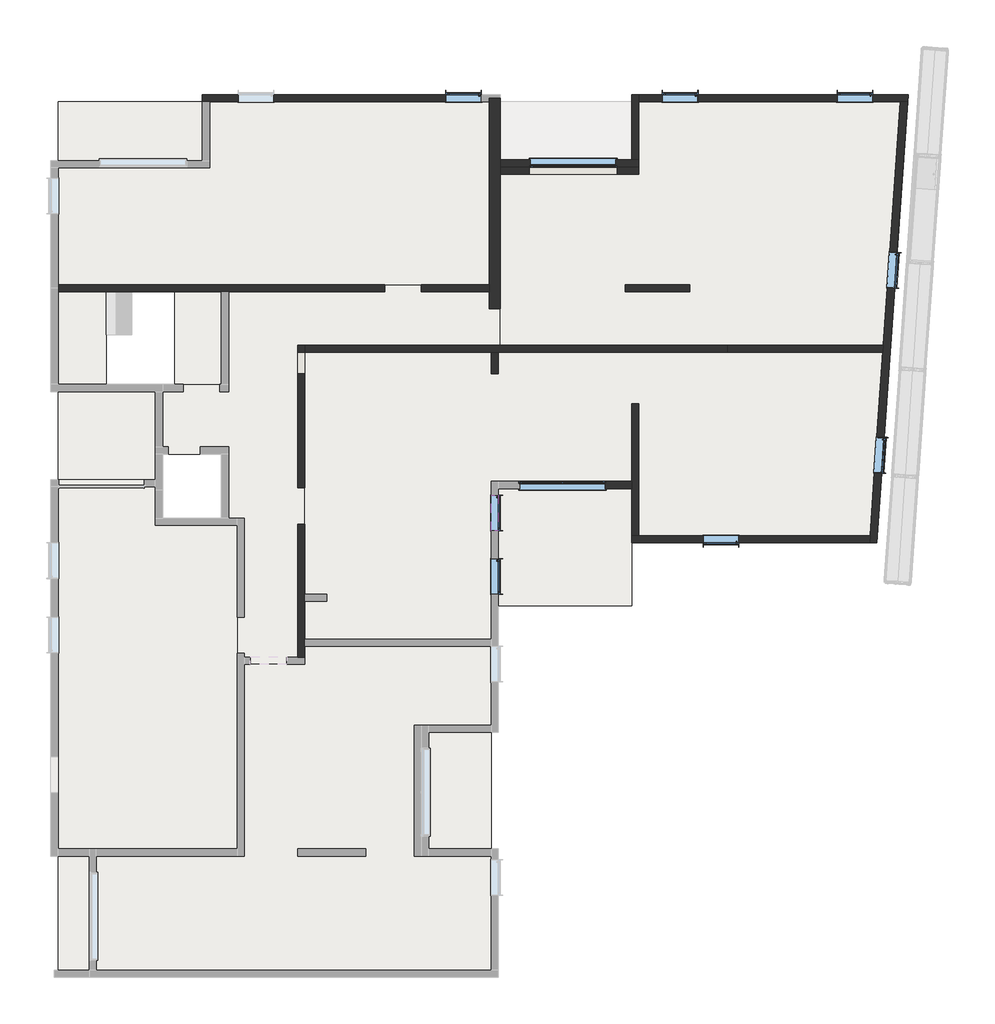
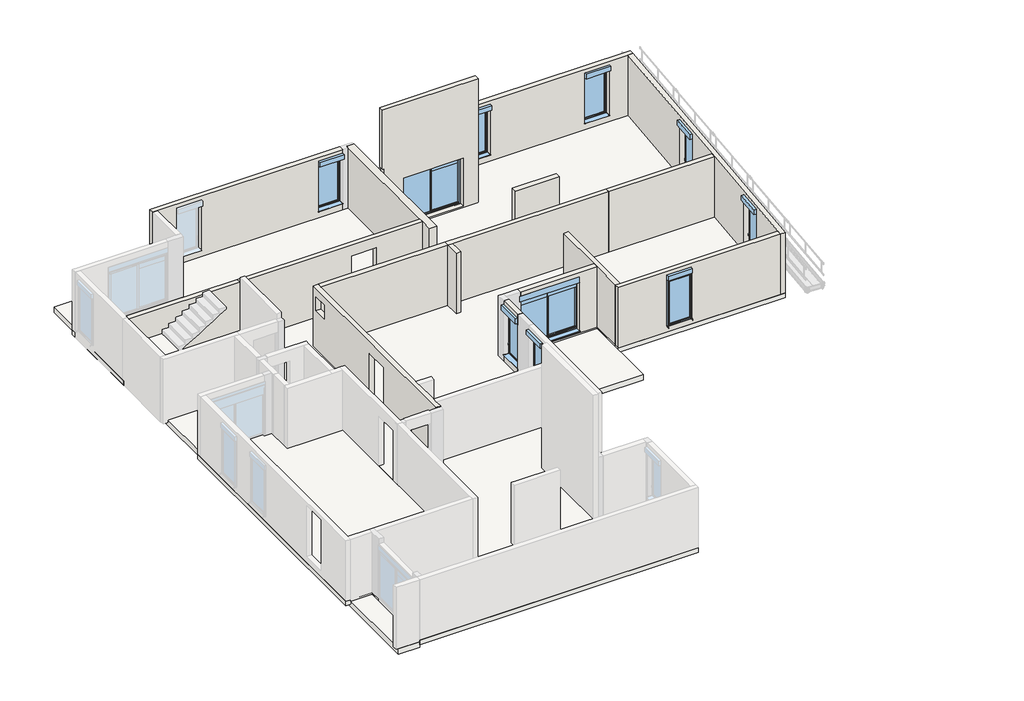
# One storey, part 2 of 3: 18 walls, 10 slabs, 10 windows.
"""IFC4 building model written with IfcOpenShell, lengths in millimetres."""

from ifc_helpers import new_model, si_unit, frame, origin, place, context, project, spatial, polyline, outline, extrude, faceted_brep, transform, mapped, element, save
from components import window_b85a0a24, window_200x100_8459d8a5, window_200x100_a15cc3b6

model = new_model("IFC4")

# Units and contexts
model_context = context("Model", 3, world=origin())
ifc_project = project(units=[si_unit("LENGTHUNIT", "METRE", prefix="MILLI")], contexts=[model_context])

# Site, building, storey
site = spatial("IfcSite", under=ifc_project)
building = spatial("IfcBuilding", under=site)
storey = spatial("IfcBuildingStorey", under=building, Name="06-Plateau 6", Elevation=10400.0)

# Slabs
placement = place(None, origin())
element("IfcSlab", 1, ObjectType="Plancher Coulé en place 23 cm", at=placement, inside=storey, context=model_context, shape_type="Brep", body=[
    faceted_brep([(1012.9552204, 11779.8622276, 9510.0), (1012.9552204, 3239.8622276, 9510.0), (1012.9552204, 3039.8622276, 9510.0), (507.9552204, 3039.8622276, 9510.0), (-512.0447796, 3039.8622276, 9510.0), (-687.0447796, 3039.8622276, 9510.0), (-887.0447796, 3039.8622276, 9510.0), (-887.0447796, 3339.8622276, 9510.0), (-887.0447796, 7129.8622276, 9510.0), (-1072.0447796, 7129.8622276, 9510.0), (-1327.0447796, 7129.8622276, 9510.0), (-1327.0447796, 8929.8622276, 9510.0), (-2817.0447796, 8929.8622276, 9510.0), (-3177.0447796, 8929.8622276, 9510.0), (-3177.0447796, 9129.8622276, 9510.0), (-3177.0447796, 10879.8622276, 9510.0), (-1377.0447796, 10879.8622276, 9510.0), (-1327.0447796, 10879.8622276, 9510.0), (-1327.0447796, 13679.8622276, 9510.0), (6482.9552204, 13679.8622276, 9510.0), (6482.9552204, 11779.8622276, 9510.0), (6232.9552204, 11779.8622276, 9510.0), (1012.9552204, 11779.8622276, 9740.0), (6232.9552204, 11779.8622276, 9740.0), (6482.9552204, 11779.8622276, 9740.0), (6482.9552204, 13679.8622276, 9740.0), (-1327.0447796, 13679.8622276, 9740.0), (-1327.0447796, 10879.8622276, 9740.0), (-1377.0447796, 10879.8622276, 9740.0), (-3177.0447796, 10879.8622276, 9740.0), (-3177.0447796, 9129.8622276, 9740.0), (-3177.0447796, 8929.8622276, 9740.0), (-2817.0447796, 8929.8622276, 9740.0), (-1327.0447796, 8929.8622276, 9740.0), (-1327.0447796, 7129.8622276, 9740.0), (-1072.0447796, 7129.8622276, 9740.0), (-887.0447796, 7129.8622276, 9740.0), (-887.0447796, 3339.8622276, 9740.0), (-887.0447796, 3039.8622276, 9740.0), (-687.0447796, 3039.8622276, 9740.0), (-512.0447796, 3039.8622276, 9740.0), (507.9552204, 3039.8622276, 9740.0), (1012.9552204, 3039.8622276, 9740.0), (1012.9552204, 3239.8622276, 9740.0), (-887.0447796, 3039.8622276, 9540.0)], [[[0, 1, 2, 3, 4, 5, 6, 7, 8, 9, 10, 11, 12, 13, 14, 15, 16, 17, 18, 19, 20, 21]], [[22, 23, 24, 25, 26, 27, 28, 29, 30, 31, 32, 33, 34, 35, 36, 37, 38, 39, 40, 41, 42, 43]], [[2, 1, 0, 22, 43, 42]], [[6, 5, 4, 3, 2, 42, 41, 40, 39, 38, 44]], [[8, 7, 6, 44, 38, 37, 36]], [[9, 8, 36, 35]], [[10, 9, 35, 34]], [[11, 10, 34, 33]], [[13, 12, 11, 33, 32, 31]], [[15, 14, 13, 31, 30, 29]], [[17, 16, 15, 29, 28, 27]], [[18, 17, 27, 26]], [[19, 18, 26, 25]], [[20, 19, 25, 24]], [[21, 20, 24, 23]], [[0, 21, 23, 22]]]),
])
element("IfcSlab", 2, ObjectType="Plancher Coulé en place 24 cm", at=placement, inside=storey, context=model_context, shape_type="SweptSolid", body=[
    extrude(outline(polyline([(-1857.0447796, 18799.8622276), (-1857.0447796, 17149.8622276), (-5907.0447796, 17149.8622276), (-5907.0447796, 18799.8622276), (-1857.0447796, 18799.8622276)])), frame((0.0, 0.0, 9430.0), z_axis=(0.0, 0.0, 1.0), x_axis=(1.0, 0.0, 0.0)), (0.0, 0.0, 1.0), 240.0),
])
element("IfcSlab", 3, ObjectType="Plancher Coulé en place 24 cm", at=placement, inside=storey, context=model_context, shape_type="Brep", body=[
    faceted_brep([(-5037.0447796, -5740.1377724, 9430.0), (-5907.0447796, -5740.1377724, 9430.0), (-5907.0447796, -2140.1377724, 9430.0), (-5037.0447796, -2140.1377724, 9430.0), (-5037.0447796, -2640.1377724, 9430.0), (-5037.0447796, -5740.1377724, 9670.0), (-5037.0447796, -2640.1377724, 9670.0), (-5037.0447796, -2140.1377724, 9670.0), (-5907.0447796, -2140.1377724, 9670.0), (-5907.0447796, -5540.1377724, 9670.0), (-5907.0447796, -5740.1377724, 9670.0), (-5907.0447796, -5740.1377724, 9470.0), (-5037.0447796, -2140.1377724, 9540.0)], [[[0, 1, 2, 3, 4]], [[5, 6, 7, 8, 9, 10]], [[0, 4, 6, 5]], [[1, 0, 5, 10, 11]], [[2, 1, 11, 10, 9, 8]], [[3, 2, 8, 7, 12]], [[4, 3, 12, 7, 6]]]),
])
element("IfcSlab", 4, ObjectType="Plancher Coulé en place 24 cm", at=placement, inside=storey, context=model_context, shape_type="Brep", body=[
    faceted_brep([(-3177.0447796, 8209.8622276, 9430.0), (-5907.0447796, 8209.8622276, 9430.0), (-5907.0447796, 10879.8622276, 9430.0), (-3177.0447796, 10879.8622276, 9430.0), (-3177.0447796, 8709.8622276, 9430.0), (-3177.0447796, 8309.8622276, 9430.0), (-3177.0447796, 8209.8622276, 9670.0), (-3177.0447796, 8309.8622276, 9670.0), (-3177.0447796, 8709.8622276, 9670.0), (-3177.0447796, 10879.8622276, 9670.0), (-5907.0447796, 10879.8622276, 9670.0), (-5907.0447796, 8209.8622276, 9670.0), (-3177.0447796, 8209.8622276, 9540.0), (-5907.0447796, 10879.8622276, 9562.7706813), (-5907.0447796, 10879.8622276, 9540.0)], [[[0, 1, 2, 3, 4, 5]], [[6, 7, 8, 9, 10, 11]], [[0, 5, 4, 3, 9, 8, 7, 6, 12]], [[1, 0, 12, 6, 11]], [[2, 1, 11, 10, 13, 14]], [[3, 2, 14, 13, 10, 9]]]),
])
element("IfcSlab", 5, ObjectType="Plancher Coulé en place 24 cm", at=placement, inside=storey, context=model_context, shape_type="SweptSolid", body=[
    extrude(outline(polyline([(-1857.0447796, 18799.8622276), (-1857.0447796, 17149.8622276), (-5907.0447796, 17149.8622276), (-5907.0447796, 18799.8622276), (-1857.0447796, 18799.8622276)])), frame((0.0, 0.0, 9430.0), z_axis=(0.0, 0.0, 1.0), x_axis=(1.0, 0.0, 0.0)), (0.0, 0.0, 1.0), 240.0),
])
element("IfcSlab", 6, ObjectType="Plancher Coulé en place 24 cm", at=placement, inside=storey, context=model_context, shape_type="Brep", body=[
    faceted_brep([(6232.9552204, 759.8622276, 9430.0), (6232.9552204, -2140.1377724, 9430.0), (4478.3552204, -2140.1377724, 9430.0), (4478.3552204, 1129.8622276, 9430.0), (6232.9552204, 1129.8622276, 9430.0), (6232.9552204, 759.8622276, 9670.0), (6232.9552204, 1129.8622276, 9670.0), (4478.3552204, 1129.8622276, 9670.0), (4478.3552204, -2140.1377724, 9670.0), (6232.9552204, -2140.1377724, 9670.0), (6232.9552204, -2140.1377724, 9540.0)], [[[0, 1, 2, 3, 4]], [[5, 6, 7, 8, 9]], [[1, 0, 5, 9, 10]], [[2, 1, 10, 9, 8]], [[3, 2, 8, 7]], [[4, 3, 7, 6]], [[0, 4, 6, 5]]]),
])
element("IfcSlab", 7, ObjectType="Plancher Coulé en place 24 cm", at=placement, inside=storey, context=model_context, shape_type="Brep", body=[
    faceted_brep([(10172.9552204, 7959.8622276, 9430.0), (10172.9552204, 7809.8622276, 9430.0), (10172.9552204, 7309.8622276, 9430.0), (10172.9552204, 4670.830828, 9430.0), (6432.9552204, 4670.830828, 9430.0), (6432.9552204, 7959.8622276, 9430.0), (10172.9552204, 7959.8622276, 9670.0), (6432.9552204, 7959.8622276, 9670.0), (6432.9552204, 4670.830828, 9670.0), (10172.9552204, 4670.830828, 9670.0), (6432.9552204, 7959.8622276, 9540.0)], [[[0, 1, 2, 3, 4, 5]], [[6, 7, 8, 9]], [[3, 2, 1, 0, 6, 9]], [[4, 3, 9, 8]], [[5, 4, 8, 7, 10]], [[0, 5, 10, 7, 6]]]),
])
element("IfcSlab", 8, ObjectType="Plancher Coulé en place 20 cm", at=placement, inside=storey, context=model_context, shape_type="Brep", body=[
    faceted_brep([(6482.9552204, 18999.8622276, 9540.0), (6482.9552204, 18799.8622276, 9540.0), (6482.9552204, 17174.8622276, 9540.0), (10172.9552204, 17174.8622276, 9540.0), (10172.9552204, 18999.8622276, 9540.0), (17919.8015255, 18999.8622276, 9540.0), (17041.777301, 6443.530828, 9540.0), (10172.9552204, 6443.530828, 9540.0), (10172.9552204, 7309.8622276, 9540.0), (10172.9552204, 7809.8622276, 9540.0), (10172.9552204, 7959.8622276, 9540.0), (7032.9552204, 7959.8622276, 9540.0), (6432.9552204, 7959.8622276, 9540.0), (6432.9552204, 7779.8622276, 9540.0), (6432.9552204, 6779.8622276, 9540.0), (6432.9552204, 5999.8622276, 9540.0), (6432.9552204, 1129.8622276, 9540.0), (4478.3552204, 1129.8622276, 9540.0), (4478.3552204, 677.5337635, 9540.0), (4478.3552204, -1770.1377724, 9540.0), (4478.3552204, -2142.5306807, 9540.0), (6232.9552204, -2142.5306807, 9540.0), (6432.9552204, -2142.5306807, 9540.0), (6432.9552204, -2440.1377724, 9540.0), (6432.9552204, -5742.5306807, 9540.0), (-5037.0447796, -5742.5306807, 9540.0), (-5037.0447796, -5540.1377724, 9540.0), (-5037.0447796, -5240.1377724, 9540.0), (-5037.0447796, -2820.1377724, 9540.0), (-5037.0447796, -2340.1377724, 9540.0), (-6107.0447796, -2340.1377724, 9540.0), (-6107.0447796, 8209.8622276, 9540.0), (-3487.0447796, 8209.8622276, 9540.0), (-3177.0447796, 8209.8622276, 9540.0), (-2977.0447796, 8209.8622276, 9540.0), (-2977.0447796, 8009.8622276, 9540.0), (-2977.0447796, 7129.8622276, 9540.0), (-887.0447796, 7129.8622276, 9540.0), (-887.0447796, 3039.8622276, 9540.0), (1012.9552204, 3039.8622276, 9540.0), (1012.9552204, 11779.8622276, 9540.0), (6482.9552204, 11779.8622276, 9540.0), (6482.9552204, 13679.8622276, 9540.0), (-1327.0447796, 13679.8622276, 9540.0), (-1327.0447796, 13479.8622276, 9540.0), (-6107.0447796, 13479.8622276, 9540.0), (-6107.0447796, 17149.8622276, 9540.0), (-2297.0447796, 17149.8622276, 9540.0), (-1857.0447796, 17149.8622276, 9540.0), (-1857.0447796, 18999.8622276, 9540.0), (-1757.0447796, 18999.8622276, 9540.0), (6332.9552204, 18999.8622276, 9540.0), (6482.9552204, 18999.8622276, 9740.0), (5962.9552204, 18999.8622276, 9740.0), (-1757.0447796, 18999.8622276, 9740.0), (-1857.0447796, 18999.8622276, 9740.0), (-1857.0447796, 17149.8622276, 9740.0), (-2297.0447796, 17149.8622276, 9740.0), (-5907.0447796, 17149.8622276, 9740.0), (-6107.0447796, 17149.8622276, 9740.0), (-6107.0447796, 16949.8622276, 9740.0), (-6107.0447796, 13479.8622276, 9740.0), (-1327.0447796, 13479.8622276, 9740.0), (-1327.0447796, 13679.8622276, 9740.0), (6482.9552204, 13679.8622276, 9740.0), (6482.9552204, 11779.8622276, 9740.0), (1012.9552204, 11779.8622276, 9740.0), (1012.9552204, 3039.8622276, 9740.0), (-887.0447796, 3039.8622276, 9740.0), (-887.0447796, 7129.8622276, 9740.0), (-2977.0447796, 7129.8622276, 9740.0), (-2977.0447796, 8009.8622276, 9740.0), (-2977.0447796, 8209.8622276, 9740.0), (-3177.0447796, 8209.8622276, 9740.0), (-3487.0447796, 8209.8622276, 9740.0), (-6107.0447796, 8209.8622276, 9740.0), (-6107.0447796, -2340.1377724, 9740.0), (-5037.0447796, -2340.1377724, 9740.0), (-5037.0447796, -2820.1377724, 9740.0), (-5037.0447796, -5240.1377724, 9740.0), (-5037.0447796, -5540.1377724, 9740.0), (-5037.0447796, -5742.5306807, 9740.0), (6432.9552204, -5742.5306807, 9740.0), (6432.9552204, -2440.1377724, 9740.0), (6432.9552204, -2142.5306807, 9740.0), (6233.3552204, -2142.5306807, 9740.0), (4478.3552204, -2142.5306807, 9740.0), (4478.3552204, -1770.1377724, 9740.0), (4478.3552204, 649.8622276, 9740.0), (4478.3552204, 1129.8622276, 9740.0), (6432.9552204, 1129.8622276, 9740.0), (6432.9552204, 5999.8622276, 9740.0), (6432.9552204, 6779.8622276, 9740.0), (6432.9552204, 7779.8622276, 9740.0), (6432.9552204, 7959.8622276, 9740.0), (7032.9552204, 7959.8622276, 9740.0), (10172.9552204, 7959.8622276, 9740.0), (10172.9552204, 6443.530828, 9740.0), (17041.777301, 6443.530828, 9740.0), (17919.8015255, 18999.8622276, 9740.0), (10172.9552204, 18999.8622276, 9740.0), (10172.9552204, 17174.8622276, 9740.0), (6482.9552204, 17174.8622276, 9740.0), (6482.9552204, 18899.8622276, 9740.0), (-5037.0447796, -2340.1377724, 9670.0)], [[[0, 1, 2, 3, 4, 5, 6, 7, 8, 9, 10, 11, 12, 13, 14, 15, 16, 17, 18, 19, 20, 21, 22, 23, 24, 25, 26, 27, 28, 29, 30, 31, 32, 33, 34, 35, 36, 37, 38, 39, 40, 41, 42, 43, 44, 45, 46, 47, 48, 49, 50, 51]], [[52, 53, 54, 55, 56, 57, 58, 59, 60, 61, 62, 63, 64, 65, 66, 67, 68, 69, 70, 71, 72, 73, 74, 75, 76, 77, 78, 79, 80, 81, 82, 83, 84, 85, 86, 87, 88, 89, 90, 91, 92, 93, 94, 95, 96, 97, 98, 99, 100, 101, 102, 103]], [[5, 4, 100, 99]], [[6, 5, 99, 98]], [[7, 6, 98, 97]], [[10, 9, 8, 7, 97, 96]], [[12, 11, 10, 96, 95, 94]], [[16, 15, 14, 13, 12, 94, 93, 92, 91, 90]], [[17, 16, 90, 89]], [[20, 19, 18, 17, 89, 88, 87, 86]], [[22, 21, 20, 86, 85, 84]], [[24, 23, 22, 84, 83, 82]], [[25, 24, 82, 81]], [[29, 28, 27, 26, 25, 81, 80, 79, 78, 77, 104]], [[30, 29, 104, 77, 76]], [[31, 30, 76, 75]], [[34, 33, 32, 31, 75, 74, 73, 72]], [[35, 34, 72, 71]], [[36, 35, 71, 70]], [[37, 36, 70, 69]], [[38, 37, 69, 68]], [[39, 38, 68, 67]], [[40, 39, 67, 66]], [[41, 40, 66, 65]], [[42, 41, 65, 64]], [[43, 42, 64, 63]], [[44, 43, 63, 62]], [[45, 44, 62, 61]], [[46, 45, 61, 60, 59]], [[48, 47, 46, 59, 58, 57, 56]], [[49, 48, 56, 55]], [[50, 49, 55, 54]], [[0, 51, 50, 54, 53, 52]], [[2, 1, 0, 52, 103, 102]], [[3, 2, 102, 101]], [[4, 3, 101, 100]]]),
])
element("IfcSlab", 9, ObjectType="Plancher Coulé en place 20 cm", at=placement, inside=storey, context=model_context, shape_type="SweptSolid", body=[
    extrude(outline(polyline([(-2628.7510491, 10879.8622276), (-2628.7510491, 13479.8622276), (-1327.0447796, 13479.8622276), (-1327.0447796, 10879.8622276), (-2628.7510491, 10879.8622276)])), frame((0.0, 0.0, 9610.0), z_axis=(0.0, 0.0, 1.0), x_axis=(1.0, 0.0, 0.0)), (0.0, 0.0, 1.0), 200.0),
])
element("IfcSlab", 10, ObjectType="Plancher Coulé en place 18 cm", at=placement, inside=storey, context=model_context, shape_type="SweptSolid", body=[
    extrude(outline(polyline([(-5907.0447796, 10879.8622276), (-5907.0447796, 13479.8622276), (-4550.4151884, 13479.8622276), (-4550.4151884, 10879.8622276), (-5907.0447796, 10879.8622276)])), frame((0.0, 0.0, 11080.0), z_axis=(0.0, 0.0, 1.0), x_axis=(1.0, 0.0, 0.0)), (0.0, 0.0, 1.0), 180.0),
])

# Walls
element("IfcWall", 11, ObjectType="Voile Banché 20 cm", at=placement, inside=storey, context=model_context, shape_type="Brep", body=[
    faceted_brep([(10172.9552204, 18999.8622276, 9740.0), (10172.9552204, 17174.8622276, 9740.0), (10172.9552204, 17174.8622276, 12370.0), (10172.9552204, 18999.8622276, 12370.0), (10172.9552204, 18999.8622276, 9760.0), (10372.9552204, 18999.8622276, 9740.0), (10372.9552204, 18999.8622276, 12370.0), (10372.9552204, 18799.8622276, 12370.0), (10372.9552204, 17174.8622276, 12370.0), (10372.9552204, 17174.8622276, 9740.0), (10372.9552204, 18799.8622276, 9740.0)], [[[0, 1, 2, 3, 4]], [[5, 6, 7, 8, 9, 10]], [[1, 0, 5, 10, 9]], [[0, 4, 3, 6, 5]], [[2, 1, 9, 8]], [[3, 2, 8, 7, 6]]]),
])
element("IfcWall", 12, ObjectType="Voile Banché 30 cm", at=placement, inside=storey, context=model_context, shape_type="Brep", body=[
    faceted_brep([(6182.9552204, 18899.8622276, 9740.0), (6182.9552204, 18799.8622276, 9740.0), (6182.9552204, 13679.8622276, 9740.0), (6182.9552204, 13479.8622276, 9740.0), (6182.9552204, 12999.8622276, 9740.0), (6182.9552204, 12999.8622276, 12370.0), (6182.9552204, 13479.8622276, 12370.0), (6182.9552204, 13679.8622276, 12370.0), (6182.9552204, 18799.8622276, 12370.0), (6182.9552204, 18899.8622276, 12370.0), (6482.9552204, 18899.8622276, 9740.0), (6482.9552204, 18899.8622276, 12370.0), (6482.9552204, 17174.8622276, 12370.0), (6482.9552204, 16974.8622276, 12370.0), (6482.9552204, 12999.8622276, 12370.0), (6482.9552204, 12999.8622276, 9740.0), (6482.9552204, 16974.8622276, 9740.0), (6482.9552204, 17174.8622276, 9740.0), (6232.9552204, 12999.8622276, 12370.0), (6232.9552204, 18899.8622276, 12370.0)], [[[0, 1, 2, 3, 4, 5, 6, 7, 8, 9]], [[10, 11, 12, 13, 14, 15, 16, 17]], [[4, 3, 2, 1, 0, 10, 17, 16, 15]], [[5, 4, 15, 14, 18]], [[0, 9, 19, 11, 10]], [[18, 14, 13, 12, 11, 19, 9, 8, 7, 6, 5]]]),
])
element("IfcWall", 13, ObjectType="Voile Banché 20 cm", at=placement, inside=storey, context=model_context, shape_type="Brep", body=[
    faceted_brep([(6482.9552204, 16974.8622276, 9740.0), (10372.9552204, 16974.8622276, 9740.0), (10372.9552204, 16974.8622276, 12370.0), (6482.9552204, 16974.8622276, 12370.0), (9762.9552204, 16974.8622276, 12110.0), (9762.9552204, 16974.8622276, 11890.0), (9762.9552204, 16974.8622276, 9810.0), (9762.9552204, 16974.8622276, 9780.0), (7302.9552204, 16974.8622276, 9780.0), (7302.9552204, 16974.8622276, 9810.0), (7302.9552204, 16974.8622276, 11890.0), (7302.9552204, 16974.8622276, 12110.0), (6482.9552204, 17174.8622276, 9740.0), (6482.9552204, 17174.8622276, 12370.0), (10172.9552204, 17174.8622276, 12370.0), (10372.9552204, 17174.8622276, 12370.0), (10372.9552204, 17174.8622276, 9740.0), (10172.9552204, 17174.8622276, 9740.0), (9762.9552204, 17174.8622276, 9740.0), (9762.9552204, 17174.8622276, 9765.0695702), (9732.9552204, 17174.8622276, 9765.0695702), (9732.9552204, 17174.8622276, 11860.0), (9762.9552204, 17174.8622276, 11860.0), (9762.9552204, 17174.8622276, 12110.0), (7302.9552204, 17174.8622276, 12110.0), (7302.9552204, 17174.8622276, 11860.0), (7332.9552204, 17174.8622276, 11860.0), (7332.9552204, 17174.8622276, 9765.0695702), (7302.9552204, 17174.8622276, 9765.0695702), (7302.9552204, 17174.8622276, 9740.0), (7302.9552204, 17014.8622276, 9740.0), (9762.9552204, 17014.8622276, 9740.0), (9742.9552204, 17024.8622276, 11870.0), (9742.9552204, 17024.8622276, 9810.0), (9762.9552204, 17024.8622276, 9810.0), (9762.9552204, 17024.8622276, 11870.0), (7322.9552204, 17024.8622276, 9810.0), (7322.9552204, 17024.8622276, 11870.0), (7302.9552204, 17024.8622276, 11870.0), (7302.9552204, 17024.8622276, 9810.0), (9762.9552204, 17034.8622276, 9810.0), (9762.9552204, 17034.8622276, 9779.2643667), (9762.9552204, 17034.8622276, 11860.0), (9762.9552204, 17034.8622276, 11870.0), (7302.9552204, 17034.8622276, 11870.0), (7302.9552204, 17034.8622276, 11860.0), (7302.9552204, 17034.8622276, 9779.2643667), (7302.9552204, 17034.8622276, 9810.0), (7332.9552204, 17034.8622276, 11860.0), (7332.9552204, 17034.8622276, 9779.2643667), (9732.9552204, 17034.8622276, 9779.2643667), (9732.9552204, 17034.8622276, 11860.0), (9742.9552204, 17034.8622276, 9810.0), (9742.9552204, 17034.8622276, 11860.0), (7322.9552204, 17034.8622276, 11860.0), (7322.9552204, 17034.8622276, 9810.0), (7322.9552204, 17034.8622276, 11870.0), (9742.9552204, 17034.8622276, 11870.0)], [[[0, 1, 2, 3], [4, 5, 6, 7, 8, 9, 10, 11]], [[12, 13, 14, 15, 16, 17, 18, 19, 20, 21, 22, 23, 24, 25, 26, 27, 28, 29]], [[1, 0, 12, 29, 30, 31, 18, 17, 16]], [[0, 3, 13, 12]], [[2, 1, 16, 15]], [[3, 2, 15, 14, 13]], [[32, 33, 34, 35]], [[36, 37, 38, 39]], [[35, 34, 40, 41, 19, 18, 31, 7, 6, 5, 4, 23, 22, 42, 43]], [[39, 38, 44, 45, 25, 24, 11, 10, 9, 8, 30, 29, 28, 46, 47]], [[26, 48, 49, 27]], [[50, 51, 21, 20]], [[41, 40, 52, 53, 51, 50]], [[47, 46, 49, 48, 54, 55]], [[37, 36, 55, 54, 56]], [[33, 32, 57, 53, 52]], [[7, 31, 30, 8]], [[41, 50, 20, 19]], [[49, 46, 28, 27]], [[36, 39, 47, 55]], [[34, 33, 52, 40]], [[23, 4, 11, 24]], [[38, 37, 56, 44]], [[32, 35, 43, 57]], [[43, 42, 53, 57]], [[45, 44, 56, 54]], [[25, 45, 54, 48, 26]], [[42, 22, 21, 51, 53]]]),
])
element("IfcWall", 14, ObjectType="Voile Banché 20 cm", at=placement, inside=storey, context=model_context, shape_type="Brep", body=[
    faceted_brep([(10372.9552204, 18799.8622276, 9740.0), (17705.3277835, 18799.8622276, 9740.0), (17905.8161631, 18799.8622276, 9740.0), (17905.8161631, 18799.8622276, 12370.0), (17705.3277835, 18799.8622276, 12370.0), (10372.9552204, 18799.8622276, 12370.0), (16929.8015255, 18799.8622276, 12210.0), (16929.8015255, 18799.8622276, 10010.0), (15929.8015255, 18799.8622276, 10010.0), (15929.8015255, 18799.8622276, 12210.0), (12032.9552204, 18799.8622276, 12210.0), (12032.9552204, 18799.8622276, 10010.0), (11032.9552204, 18799.8622276, 10010.0), (11032.9552204, 18799.8622276, 12210.0), (17919.8015255, 18999.8622276, 9740.0), (10372.9552204, 18999.8622276, 9740.0), (10372.9552204, 18999.8622276, 12370.0), (17919.8015255, 18999.8622276, 12370.0), (16929.8015255, 18999.8622276, 10010.0), (16929.8015255, 18999.8622276, 12210.0), (15929.8015255, 18999.8622276, 12210.0), (15929.8015255, 18999.8622276, 10010.0), (12032.9552204, 18999.8622276, 10010.0), (12032.9552204, 18999.8622276, 12210.0), (11032.9552204, 18999.8622276, 12210.0), (11032.9552204, 18999.8622276, 10010.0)], [[[0, 1, 2, 3, 4, 5], [6, 7, 8, 9], [10, 11, 12, 13]], [[14, 15, 16, 17], [18, 19, 20, 21], [22, 23, 24, 25]], [[2, 1, 0, 15, 14]], [[0, 5, 16, 15]], [[3, 2, 14, 17]], [[5, 4, 3, 17, 16]], [[18, 7, 6, 19]], [[19, 6, 9, 20]], [[20, 9, 8, 21]], [[7, 18, 21, 8]], [[22, 11, 10, 23]], [[23, 10, 13, 24]], [[24, 13, 12, 25]], [[11, 22, 25, 12]]]),
])
element("IfcWall", 15, ObjectType="Voile Banché 20 cm", at=placement, inside=storey, context=model_context, shape_type="Brep", body=[
    faceted_brep([(17705.3277835, 18799.8622276, 9740.0), (17228.4269261, 11979.8622276, 9740.0), (17214.4415637, 11779.8622276, 9740.0), (16855.2742838, 6643.530828, 9740.0), (16841.2889214, 6443.530828, 9740.0), (16841.2889214, 6443.530828, 12370.0), (16855.2742838, 6643.530828, 12370.0), (17214.4415637, 11779.8622276, 12370.0), (17228.4269261, 11979.8622276, 12370.0), (17705.3277835, 18799.8622276, 12370.0), (17411.2675368, 14594.6047797, 10010.0), (17411.2675368, 14594.6047797, 12210.0), (17341.511063, 13597.0407295, 12210.0), (17341.511063, 13597.0407295, 10010.0), (17048.5338733, 9407.2717184, 10010.0), (17048.5338733, 9407.2717184, 12210.0), (16978.7773996, 8409.7076681, 12210.0), (16978.7773996, 8409.7076681, 10010.0), (17041.777301, 6443.530828, 9740.0), (17905.8161631, 18799.8622276, 9740.0), (17905.8161631, 18799.8622276, 12370.0), (17041.777301, 6443.530828, 12370.0), (17610.7803468, 14580.653485, 12210.0), (17610.7803468, 14580.653485, 10010.0), (17541.0238731, 13583.0894347, 10010.0), (17541.0238731, 13583.0894347, 12210.0), (17248.0466834, 9393.3204236, 12210.0), (17248.0466834, 9393.3204236, 10010.0), (17178.2902096, 8395.7563734, 10010.0), (17178.2902096, 8395.7563734, 12210.0)], [[[0, 1, 2, 3, 4, 5, 6, 7, 8, 9], [10, 11, 12, 13], [14, 15, 16, 17]], [[18, 19, 20, 21], [22, 23, 24, 25], [26, 27, 28, 29]], [[4, 3, 2, 1, 0, 19, 18]], [[5, 4, 18, 21]], [[0, 9, 20, 19]], [[9, 8, 7, 6, 5, 21, 20]], [[10, 23, 22, 11]], [[11, 22, 25, 12]], [[12, 25, 24, 13]], [[23, 10, 13, 24]], [[14, 27, 26, 15]], [[16, 29, 28, 17]], [[27, 14, 17, 28]], [[29, 16, 15, 26]]]),
])
element("IfcWall", 16, ObjectType="Voile Banché 20 cm", at=placement, inside=storey, context=model_context, shape_type="Brep", body=[
    faceted_brep([(16855.2742838, 6643.530828, 9740.0), (10373.5257924, 6643.530828, 9740.0), (10173.5257924, 6643.530828, 9740.0), (10173.5257924, 6643.530828, 12370.0), (10373.5257924, 6643.530828, 12370.0), (16855.2742838, 6643.530828, 12370.0), (13174.0290951, 6643.530828, 10010.0), (13174.0290951, 6643.530828, 12210.0), (12174.0290951, 6643.530828, 12210.0), (12174.0290951, 6643.530828, 10010.0), (10173.5257924, 6443.530828, 9740.0), (16841.2889214, 6443.530828, 9740.0), (16841.2889214, 6443.530828, 12370.0), (10173.5257924, 6443.530828, 12370.0), (10173.5257924, 6443.530828, 12190.0), (10173.5257924, 6443.530828, 9760.0), (13174.0290951, 6443.530828, 12210.0), (13174.0290951, 6443.530828, 10010.0), (12174.0290951, 6443.530828, 10010.0), (12174.0290951, 6443.530828, 12210.0)], [[[0, 1, 2, 3, 4, 5], [6, 7, 8, 9]], [[10, 11, 12, 13, 14, 15], [16, 17, 18, 19]], [[2, 1, 0, 11, 10]], [[0, 5, 12, 11]], [[3, 2, 10, 15, 14, 13]], [[5, 4, 3, 13, 12]], [[6, 17, 16, 7]], [[7, 16, 19, 8]], [[8, 19, 18, 9]], [[17, 6, 9, 18]]]),
])
element("IfcWall", 17, ObjectType="Voile Banché 20 cm", at=placement, inside=storey, context=model_context, shape_type="Brep", body=[
    faceted_brep([(10373.5257924, 6643.530828, 9740.0), (10373.5257924, 10343.530828, 9740.0), (10373.5257924, 10343.530828, 12370.0), (10373.5257924, 6643.530828, 12370.0), (10173.5257924, 6643.530828, 9740.0), (10173.5257924, 6643.530828, 12370.0), (10173.5257924, 7959.8622276, 12370.0), (10173.5257924, 8159.8622276, 12370.0), (10173.5257924, 10343.530828, 12370.0), (10173.5257924, 10343.530828, 9740.0), (10173.5257924, 8159.8622276, 9740.0), (10173.5257924, 7959.8622276, 9740.0)], [[[0, 1, 2, 3]], [[4, 5, 6, 7, 8, 9, 10, 11]], [[1, 0, 4, 11, 10, 9]], [[2, 1, 9, 8]], [[0, 3, 5, 4]], [[3, 2, 8, 7, 6, 5]]]),
])
element("IfcWall", 18, ObjectType="Voile Banché 20 cm", at=placement, inside=storey, context=model_context, shape_type="Brep", body=[
    faceted_brep([(1012.9552204, 11979.8622276, 9740.0), (1012.9552204, 11979.8622276, 12370.0), (1012.9552204, 11779.8622276, 12370.0), (1012.9552204, 4999.8622276, 12370.0), (1012.9552204, 4799.8622276, 12370.0), (1012.9552204, 3739.8622276, 12370.0), (1012.9552204, 3539.8622276, 12370.0), (1012.9552204, 3239.8622276, 12370.0), (1012.9552204, 3239.8622276, 12340.0), (1012.9552204, 3239.8622276, 9740.0), (1012.9552204, 3539.8622276, 9740.0), (1012.9552204, 3739.8622276, 9740.0), (1012.9552204, 4799.8622276, 9740.0), (1012.9552204, 4999.8622276, 9740.0), (1012.9552204, 6959.8622276, 9740.0), (1012.9552204, 6959.8622276, 11860.0), (1012.9552204, 7979.8622276, 11860.0), (1012.9552204, 7979.8622276, 9740.0), (1012.9552204, 11779.8622276, 9740.0), (1012.9552204, 11179.8622276, 12010.0), (1012.9552204, 11779.8622276, 12010.0), (1012.9552204, 11779.8622276, 11410.0), (1012.9552204, 11179.8622276, 11410.0), (1012.9552204, 4999.8622276, 10540.0), (1012.9552204, 5399.8622276, 10540.0), (1012.9552204, 5399.8622276, 9940.0), (1012.9552204, 4999.8622276, 9940.0), (812.9552204, 11979.8622276, 12370.0), (812.9552204, 11979.8622276, 9740.0), (812.9552204, 7979.8622276, 9740.0), (812.9552204, 7979.8622276, 11860.0), (812.9552204, 6959.8622276, 11860.0), (812.9552204, 6959.8622276, 9740.0), (812.9552204, 3239.8622276, 9740.0), (812.9552204, 3239.8622276, 12370.0), (812.9552204, 11779.8622276, 12010.0), (812.9552204, 11179.8622276, 12010.0), (812.9552204, 11179.8622276, 11410.0), (812.9552204, 11779.8622276, 11410.0), (812.9552204, 5399.8622276, 10540.0), (812.9552204, 4999.8622276, 10540.0), (812.9552204, 4999.8622276, 9940.0), (812.9552204, 5399.8622276, 9940.0)], [[[0, 1, 2, 3, 4, 5, 6, 7, 8, 9, 10, 11, 12, 13, 14, 15, 16, 17, 18], [19, 20, 21, 22], [23, 24, 25, 26]], [[27, 28, 29, 30, 31, 32, 33, 34], [35, 36, 37, 38], [39, 40, 41, 42]], [[28, 0, 18, 17, 29]], [[9, 33, 32, 14, 13, 12, 11, 10]], [[7, 6, 5, 4, 3, 2, 1, 27, 34]], [[9, 8, 7, 34, 33]], [[19, 36, 35, 20]], [[21, 38, 37, 22]], [[36, 19, 22, 37]], [[20, 35, 38, 21]], [[15, 31, 30, 16]], [[31, 15, 14, 32]], [[16, 30, 29, 17]], [[23, 40, 39, 24]], [[25, 42, 41, 26]], [[24, 39, 42, 25]], [[40, 23, 26, 41]], [[1, 0, 28, 27]]]),
])
element("IfcWall", 19, ObjectType="Voile Banché 20 cm", at=placement, inside=storey, context=model_context, shape_type="Brep", body=[
    faceted_brep([(1012.9552204, 11779.8622276, 9740.0), (12853.5257924, 11779.8622276, 9740.0), (12853.5257924, 11779.8622276, 12370.0), (6908.2148011, 11779.8622276, 12370.0), (6490.6956398, 11779.8622276, 12370.0), (6432.9552204, 11779.8622276, 12370.0), (6232.9552204, 11779.8622276, 12370.0), (1012.9552204, 11779.8622276, 12370.0), (1012.9552204, 11779.8622276, 12010.0), (1012.9552204, 11779.8622276, 11410.0), (1012.9552204, 11979.8622276, 9740.0), (1012.9552204, 11979.8622276, 12370.0), (6232.9552204, 11979.8622276, 12370.0), (6857.1956398, 11979.8622276, 12370.0), (7274.7148011, 11979.8622276, 12370.0), (12853.5257924, 11979.8622276, 12370.0), (12853.5257924, 11979.8622276, 9740.0)], [[[0, 1, 2, 3, 4, 5, 6, 7, 8, 9]], [[10, 11, 12, 13, 14, 15, 16]], [[1, 0, 10, 16]], [[2, 1, 16, 15]], [[0, 9, 8, 7, 11, 10]], [[7, 6, 12, 11]], [[6, 5, 4, 3, 2, 15, 14, 13, 12]]]),
])
element("IfcWall", 20, ObjectType="Voile Banché 20 cm", at=placement, inside=storey, context=model_context, shape_type="Brep", body=[
    faceted_brep([(6232.9552204, 11779.8622276, 9670.0), (6232.9552204, 11179.8622276, 9670.0), (6232.9552204, 11179.8622276, 12220.0), (6232.9552204, 11179.8622276, 12370.0), (6232.9552204, 11779.8622276, 12370.0), (6432.9552204, 11779.8622276, 9670.0), (6432.9552204, 11779.8622276, 12370.0), (6432.9552204, 11748.3531311, 12370.0), (6432.9552204, 11520.5118426, 12370.0), (6432.9552204, 11179.8622276, 12370.0), (6432.9552204, 11179.8622276, 12220.0), (6432.9552204, 11179.8622276, 9670.0)], [[[0, 1, 2, 3, 4]], [[5, 6, 7, 8, 9, 10, 11]], [[1, 0, 5, 11]], [[3, 2, 1, 11, 10, 9]], [[0, 4, 6, 5]], [[4, 3, 9, 8, 7, 6]]]),
])
element("IfcWall", 21, ObjectType="Voile Banché 20 cm", at=placement, inside=storey, context=model_context, shape_type="SweptSolid", body=[
    extrude(outline(polyline([(6432.9552204, 7779.8622276), (6432.9552204, 6779.8622276), (6232.9552204, 6779.8622276), (6232.9552204, 7779.8622276), (6432.9552204, 7779.8622276)])), frame((0.0, 0.0, 11910.0), z_axis=(0.0, 0.0, 1.0), x_axis=(1.0, 0.0, 0.0)), (0.0, 0.0, 1.0), 460.0),
])
element("IfcWall", 22, ObjectType="Acrotère BA 20 cm", at=placement, inside=storey, context=model_context, shape_type="SweptSolid", body=[
    extrude(outline(polyline([(6232.9552204, 6779.8622276), (6232.9552204, 7779.8622276), (6432.9552204, 7779.8622276), (6432.9552204, 6779.8622276), (6232.9552204, 6779.8622276)])), frame((0.0, 0.0, 9740.0), z_axis=(0.0, 0.0, 1.0), x_axis=(1.0, 0.0, 0.0)), (0.0, 0.0, 1.0), 270.0),
])
element("IfcWall", 23, ObjectType="Voile Banché 20 cm", at=placement, inside=storey, context=model_context, shape_type="SweptSolid", body=[
    extrude(outline(polyline([(9740.0, 6482.9552204), (9740.0, 10372.9552204), (15140.0, 10372.9552204), (15140.0, 6432.9552204), (12570.0, 6432.9552204), (12570.0, 6482.9552204), (9740.0, 6482.9552204)]), holes=[polyline([(11890.0, 9762.9552204), (9810.0, 9762.9552204), (9810.0, 7302.9552204), (11890.0, 7302.9552204), (11890.0, 9762.9552204)])]), frame((0.0, 16774.8622276, 0.0), z_axis=(0.0, 1.0, 0.0), x_axis=(0.0, 0.0, 1.0)), (0.0, 0.0, 1.0), 200.0),
])
element("IfcWall", 24, ObjectType="Poutre voile 20cm", at=placement, inside=storey, context=model_context, shape_type="Brep", body=[
    faceted_brep([(-1857.0447796, 18799.8622276, 9740.0), (-1657.0447796, 18799.8622276, 9740.0), (5962.9552204, 18799.8622276, 9740.0), (5962.9552204, 18799.8622276, 10010.0), (4962.9552204, 18799.8622276, 10010.0), (4962.9552204, 18799.8622276, 12210.0), (5962.9552204, 18799.8622276, 12210.0), (5962.9552204, 18799.8622276, 12370.0), (-1657.0447796, 18799.8622276, 12370.0), (-1857.0447796, 18799.8622276, 12370.0), (-1857.0447796, 18799.8622276, 12210.0), (-1857.0447796, 18799.8622276, 10410.0), (142.9552204, 18799.8622276, 12210.0), (142.9552204, 18799.8622276, 10010.0), (-857.0447796, 18799.8622276, 10010.0), (-857.0447796, 18799.8622276, 12210.0), (5962.9552204, 18999.8622276, 9740.0), (-1857.0447796, 18999.8622276, 9740.0), (-1857.0447796, 18999.8622276, 10410.0), (-1857.0447796, 18999.8622276, 12210.0), (-1857.0447796, 18999.8622276, 12370.0), (5962.9552204, 18999.8622276, 12370.0), (5962.9552204, 18999.8622276, 12210.0), (4962.9552204, 18999.8622276, 12210.0), (4962.9552204, 18999.8622276, 10010.0), (5962.9552204, 18999.8622276, 10010.0), (142.9552204, 18999.8622276, 10010.0), (142.9552204, 18999.8622276, 12210.0), (-857.0447796, 18999.8622276, 12210.0), (-857.0447796, 18999.8622276, 10010.0)], [[[0, 1, 2, 3, 4, 5, 6, 7, 8, 9, 10, 11], [12, 13, 14, 15]], [[16, 17, 18, 19, 20, 21, 22, 23, 24, 25], [26, 27, 28, 29]], [[2, 1, 0, 17, 16]], [[2, 16, 25, 3]], [[21, 7, 6, 22]], [[0, 11, 10, 9, 20, 19, 18, 17]], [[9, 8, 7, 21, 20]], [[5, 23, 22, 6]], [[23, 5, 4, 24]], [[24, 4, 3, 25]], [[26, 13, 12, 27]], [[27, 12, 15, 28]], [[28, 15, 14, 29]], [[13, 26, 29, 14]]]),
])
element("IfcWall", 25, ObjectType="Poutre voile 20cm", at=placement, inside=storey, context=model_context, shape_type="Brep", body=[
    faceted_brep([(6182.9552204, 13479.8622276, 9740.0), (6182.9552204, 13479.8622276, 12370.0), (-1327.0447796, 13479.8622276, 12370.0), (-5907.0447796, 13479.8622276, 12370.0), (-5907.0447796, 13479.8622276, 9740.0), (-1327.0447796, 13479.8622276, 9740.0), (-1127.0447796, 13479.8622276, 9740.0), (3252.9552204, 13479.8622276, 9740.0), (3252.9552204, 13479.8622276, 11910.0), (4272.9552204, 13479.8622276, 11910.0), (4272.9552204, 13479.8622276, 9740.0), (6182.9552204, 13679.8622276, 12370.0), (6182.9552204, 13679.8622276, 9740.0), (4272.9552204, 13679.8622276, 9740.0), (4272.9552204, 13679.8622276, 11910.0), (3252.9552204, 13679.8622276, 11910.0), (3252.9552204, 13679.8622276, 9740.0), (-5907.0447796, 13679.8622276, 9740.0), (-5907.0447796, 13679.8622276, 12370.0), (-1327.0447796, 13679.8622276, 12370.0), (-5907.0447796, 13579.8622276, 12370.0)], [[[0, 1, 2, 3, 4, 5, 6, 7, 8, 9, 10]], [[11, 12, 13, 14, 15, 16, 17, 18, 19]], [[12, 0, 10, 13]], [[4, 17, 16, 7, 6, 5]], [[8, 15, 14, 9]], [[15, 8, 7, 16]], [[9, 14, 13, 10]], [[1, 0, 12, 11]], [[4, 3, 20, 18, 17]], [[2, 1, 11, 19]], [[3, 2, 19, 18, 20]]]),
])
element("IfcWall", 26, ObjectType="Poutre voile 20cm", at=placement, inside=storey, context=model_context, shape_type="Brep", body=[
    faceted_brep([(9997.9552204, 13479.8622276, 9670.0), (11807.9552204, 13479.8622276, 9670.0), (11807.9552204, 13479.8622276, 12370.0), (10023.4648011, 13479.8622276, 12370.0), (9997.9552204, 13479.8622276, 12370.0), (9997.9552204, 13479.8622276, 12270.0), (9997.9552204, 13679.8622276, 9670.0), (9997.9552204, 13679.8622276, 12270.0), (9997.9552204, 13679.8622276, 12370.0), (11807.9552204, 13679.8622276, 12370.0), (11807.9552204, 13679.8622276, 9670.0)], [[[0, 1, 2, 3, 4, 5]], [[6, 7, 8, 9, 10]], [[1, 0, 6, 10]], [[2, 1, 10, 9]], [[0, 5, 4, 8, 7, 6]], [[4, 3, 2, 9, 8]]]),
])
element("IfcWall", 27, ObjectType="Poutre voile 20cm", at=placement, inside=storey, context=model_context, shape_type="Brep", body=[
    faceted_brep([(10173.5257924, 8159.8622276, 9740.0), (7033.5257924, 8159.8622276, 9740.0), (7033.5257924, 8159.8622276, 9850.0), (9463.5257924, 8159.8622276, 9850.0), (9463.5257924, 8159.8622276, 9880.0), (9463.5257924, 8159.8622276, 11960.0), (9463.5257924, 8159.8622276, 12180.0), (7033.5257924, 8159.8622276, 12180.0), (7033.5257924, 8159.8622276, 12370.0), (10173.5257924, 8159.8622276, 12370.0), (7033.5257924, 7959.8622276, 9740.0), (10173.5257924, 7959.8622276, 9740.0), (10173.5257924, 7959.8622276, 12370.0), (7033.5257924, 7959.8622276, 12370.0), (7033.5257924, 7959.8622276, 12180.0), (9463.5257924, 7959.8622276, 12180.0), (9463.5257924, 7959.8622276, 11930.0), (9433.5257924, 7959.8622276, 11930.0), (9433.5257924, 7959.8622276, 9835.0695702), (9463.5257924, 7959.8622276, 9835.0695702), (9463.5257924, 7959.8622276, 9780.0), (7033.5257924, 7959.8622276, 9780.0), (7033.5257924, 8089.8622276, 9780.0), (7033.5257924, 8099.8622276, 9780.0), (7033.5257924, 8099.8622276, 9790.0), (9443.5257924, 8109.8622276, 9880.0), (9443.5257924, 8109.8622276, 11940.0), (9463.5257924, 8109.8622276, 11940.0), (9463.5257924, 8109.8622276, 9880.0), (9463.5257924, 8099.8622276, 11940.0), (9463.5257924, 8099.8622276, 11930.0), (9463.5257924, 8089.8622276, 9780.0), (9463.5257924, 8099.8622276, 9849.2643667), (9463.5257924, 8099.8622276, 9880.0), (9433.5257924, 8099.8622276, 9780.0), (9433.5257924, 8099.8622276, 9790.0), (9433.5257924, 8089.8622276, 9780.0), (9433.5257924, 8099.8622276, 11930.0), (9433.5257924, 8099.8622276, 9849.2643667), (9443.5257924, 8099.8622276, 11930.0), (9443.5257924, 8099.8622276, 9880.0), (9443.5257924, 8099.8622276, 11940.0)], [[[0, 1, 2, 3, 4, 5, 6, 7, 8, 9]], [[10, 11, 12, 13, 14, 15, 16, 17, 18, 19, 20, 21]], [[1, 0, 11, 10]], [[1, 10, 21, 22, 23, 24, 2]], [[13, 8, 7, 14]], [[0, 9, 12, 11]], [[9, 8, 13, 12]], [[25, 26, 27, 28]], [[28, 27, 29, 30, 16, 15, 6, 5, 4, 3, 31, 20, 19, 32, 33]], [[23, 34, 35, 24]], [[35, 34, 36]], [[17, 37, 38, 18]], [[34, 23, 22, 21, 20, 31, 36]], [[33, 32, 38, 37, 39, 40]], [[26, 25, 40, 39, 41]], [[31, 3, 2, 24, 35, 36]], [[38, 32, 19, 18]], [[25, 28, 33, 40]], [[6, 15, 14, 7]], [[27, 26, 41, 29]], [[30, 29, 41, 39]], [[16, 30, 39, 37, 17]]]),
])
element("IfcWall", 28, ObjectType="Poutre voile 20cm", at=placement, inside=storey, context=model_context, shape_type="SweptSolid", body=[
    extrude(outline(polyline([(17214.4415637, 11779.8622276), (12853.5257924, 11779.8622276), (12853.5257924, 11979.8622276), (17228.4269261, 11979.8622276), (17214.4415637, 11779.8622276)])), frame((0.0, 0.0, 9740.0), z_axis=(0.0, 0.0, 1.0), x_axis=(1.0, 0.0, 0.0)), (0.0, 0.0, 1.0), 2630.0),
])

# Windows
window_shape = window_b85a0a24(model_context)
element("IfcWindow", 29, ObjectType="Rect 2 couliss+CVR+App : M03 Appuis 7 cm", at=placement, inside=storey, context=model_context, shape_type="MappedRepresentation", body=[
    mapped(window_shape, transform((8233.5257924, 8059.8622276, 9880.0), x_axis=(-1.0, 0.0, 0.0), y_axis=(0.0, -1.0, 0.0), z_axis=(0.0, 0.0, 1.0))),
])
element("IfcWindow", 30, ObjectType="Rect 2 couliss+CVR+App : M03 Appuis 7 cm", at=placement, inside=storey, context=model_context, shape_type="MappedRepresentation", body=[
    mapped(window_shape, transform((8532.9552204, 17074.8622276, 9810.0), x_axis=(1.0, 0.0, 0.0), y_axis=(0.0, 1.0, 0.0), z_axis=(0.0, 0.0, 1.0))),
])
window_200x100_shape = window_200x100_8459d8a5(model_context)
element("IfcWindow", 31, ObjectType="Tunnel 1V+VR+ Voile : 200x100", at=placement, inside=storey, context=model_context, shape_type="MappedRepresentation", body=[
    mapped(window_200x100_shape, transform((17113.4120415, 8901.5140459, 9210.0), x_axis=(-0.06975647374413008, -0.997564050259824, 0.0), y_axis=(0.997564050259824, -0.06975647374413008, 0.0), z_axis=(0.0, 0.0, 1.0))),
])
element("IfcWindow", 32, ObjectType="Tunnel 1V+VR+ Voile : 200x100", at=placement, inside=storey, context=model_context, shape_type="MappedRepresentation", body=[
    mapped(window_200x100_shape, transform((17476.1457049, 14088.8471072, 9210.0), x_axis=(-0.06975647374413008, -0.997564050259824, 0.0), y_axis=(0.997564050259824, -0.06975647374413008, 0.0), z_axis=(0.0, 0.0, 1.0))),
])
element("IfcWindow", 33, ObjectType="Tunnel 1V+VR+ Voile : 200x100", at=placement, inside=storey, context=model_context, shape_type="MappedRepresentation", body=[
    mapped(window_200x100_shape, transform((12674.0290951, 6543.530828, 9210.0), x_axis=(-1.0, 0.0, 0.0), y_axis=(0.0, -1.0, 0.0), z_axis=(0.0, 0.0, 1.0))),
])
window_200x100_2_shape = window_200x100_a15cc3b6(model_context)
element("IfcWindow", 34, ObjectType="Tunnel 1V+VR+ Voile : 200x100", at=placement, inside=storey, context=model_context, shape_type="MappedRepresentation", body=[
    mapped(window_200x100_2_shape, transform((11532.9552204, 18899.8622276, 9210.0), x_axis=(-1.0, 0.0, 0.0), y_axis=(0.0, -1.0, 0.0), z_axis=(0.0, 0.0, 1.0))),
])
element("IfcWindow", 35, ObjectType="Tunnel 1V+VR+ Voile : 200x100", at=placement, inside=storey, context=model_context, shape_type="MappedRepresentation", body=[
    mapped(window_200x100_2_shape, transform((16429.8015255, 18899.8622276, 9210.0), x_axis=(-1.0, 0.0, 0.0), y_axis=(0.0, -1.0, 0.0), z_axis=(0.0, 0.0, 1.0))),
])
element("IfcWindow", 36, ObjectType="Tunnel 1V+VR+ Voile : 200x100", at=placement, inside=storey, context=model_context, shape_type="MappedRepresentation", body=[
    mapped(window_200x100_2_shape, transform((5462.9552204, 18899.8622276, 9210.0), x_axis=(-1.0, 0.0, 0.0), y_axis=(0.0, -1.0, 0.0), z_axis=(0.0, 0.0, 1.0))),
])
element("IfcWindow", 37, ObjectType="Tunnel 1V+VR+ Voile : 200x100", at=placement, inside=storey, context=model_context, shape_type="MappedRepresentation", body=[
    mapped(window_200x100_shape, transform((6332.9552204, 5499.8622276, 9210.0), x_axis=(0.0, -1.0, 0.0), y_axis=(1.0, 0.0, 0.0), z_axis=(0.0, 0.0, 1.0))),
])
element("IfcWindow", 38, ObjectType="Tunnel 1V+VR+ Voile : 200x100", at=placement, inside=storey, context=model_context, shape_type="MappedRepresentation", body=[
    mapped(window_200x100_shape, transform((6332.9552204, 7279.8622276, 9210.0), x_axis=(0.0, -1.0, 0.0), y_axis=(1.0, 0.0, 0.0), z_axis=(0.0, 0.0, 1.0))),
])

save(model, "model.ifc")
